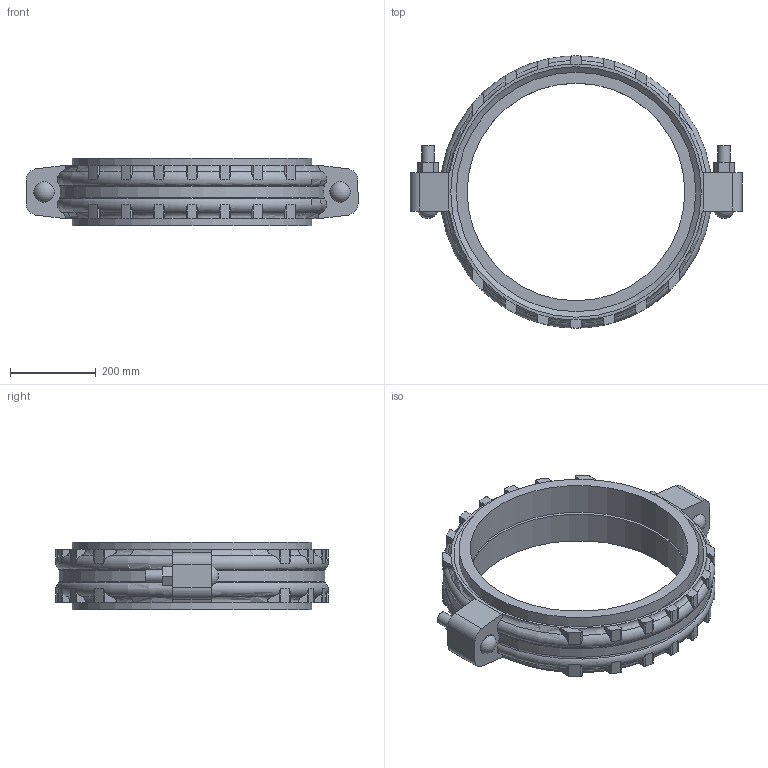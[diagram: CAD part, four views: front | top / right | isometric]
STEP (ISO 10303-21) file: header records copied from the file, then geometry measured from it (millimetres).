
FILE_DESCRIPTION(/* description */ ('VIC COUPLING FLEX STYLE W77 AGS VIC-RING ','CAx-IF Rec.Pracs.---Representation and Presentation of Product Manufacturing Information (PMI)---4.0---2014-10-13'),/* implementation_level */ '2;1');
FILE_NAME(/* name */ 'C:\Users\Vjadhav\AppData\Roaming\Autodesk\ApplicationPlugins\Victaulic.Temp\A52\Victaulic_Vic-Ring_Coupling Flexible_Style W77 (AGR)_22 (550).stp',/* time_stamp */ '2021-12-20T11:05:03+06:00',/* author */ ('Vjadhav'),/* organization */ ('Victaulic'),/* preprocessor_version */ 'ST-DEVELOPER v17.2',/* originating_system */ 'Autodesk Inventor 2019',/* authorisation */ '');
FILE_SCHEMA (('AP242_MANAGED_MODEL_BASED_3D_ENGINEERING_MIM_LF { 1 0 10303 442 1 1 4 }'));
Length unit declared in the file: inch
Products named in the file (3): W77 VR-22.0; W77 VR-22.0_1; W77 VR-22.0_2
Assembly tree (3 placements, depth 2):
  W77 VR-22.0
    W77 VR-22.0_1
    W77 VR-22.0_2  x2
Bounding box: 774.7 x 634.97 x 157.99 mm (x, y, z)
Volume: 15368590.7 mm3; surface area: 1394190.3 mm2
Topology: 3 solids, 5 shells, 253 faces, 841 edges, 550 vertices
Faces by surface type: cylinder 139, plane 98, torus 12, sphere 2, cone 2
Full cylindrical faces by diameter (mm): 28.575 x4, 47.625 x2, 508 x2, 539.75 x1, 558.8 x4
Entity records: 11465 total; most frequent: CARTESIAN_POINT 3856, ORIENTED_EDGE 1662, DIRECTION 1451, EDGE_CURVE 831, AXIS2_PLACEMENT_3D 561, VERTEX_POINT 542, LINE 329, VECTOR 329
